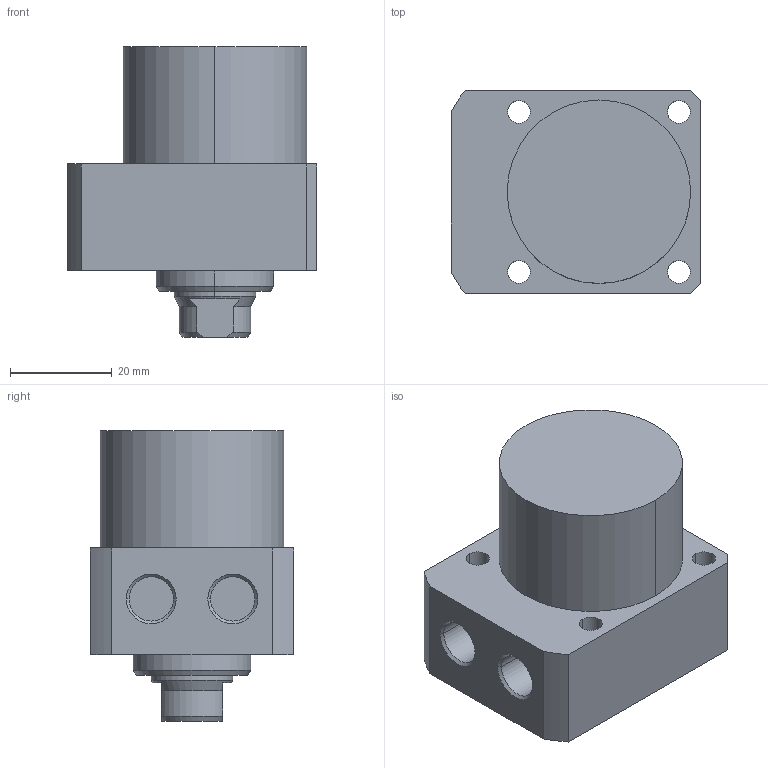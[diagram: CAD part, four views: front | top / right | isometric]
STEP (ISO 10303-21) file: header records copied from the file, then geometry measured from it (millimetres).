
FILE_DESCRIPTION((' '),'2;1');
FILE_NAME( 'TLLR-036CA-(1-14).STEP.stp', '2025-10-24T16:35:43', (' '), ('--- Datakit www.datakit.com---'), ' Datakit CrossCadWare V2024.1 Dec 21 2023', 'Mastercam 2025', ' ');
FILE_SCHEMA(('AUTOMOTIVE_DESIGN { 1 0 10303 214 1 1 1 1 }'));
Length unit declared in the file: millimetre
Products named in the file (1): TLLR-036CA-(1-14)
Bounding box: 49 x 40 x 57 mm (x, y, z)
Volume: 64114.8 mm3; surface area: 12681 mm2
Topology: 1 solids, 1 shells, 61 faces, 172 edges, 119 vertices
Faces by surface type: cylinder 28, plane 19, cone 14
Entity records: 2092 total; most frequent: DIRECTION 384, CARTESIAN_POINT 383, ORIENTED_EDGE 340, EDGE_CURVE 170, AXIS2_PLACEMENT_3D 160, VERTEX_POINT 119, CIRCLE 98, EDGE_LOOP 77
